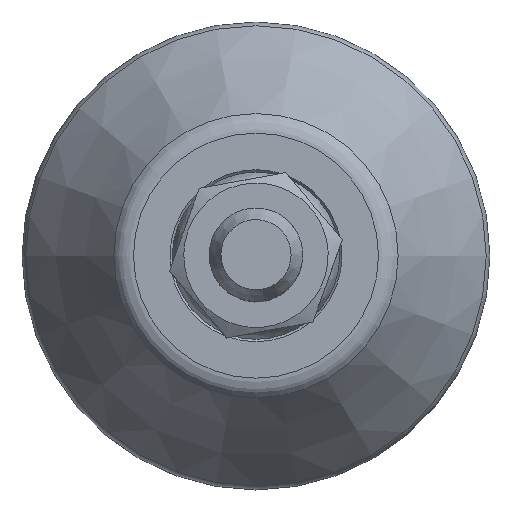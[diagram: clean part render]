
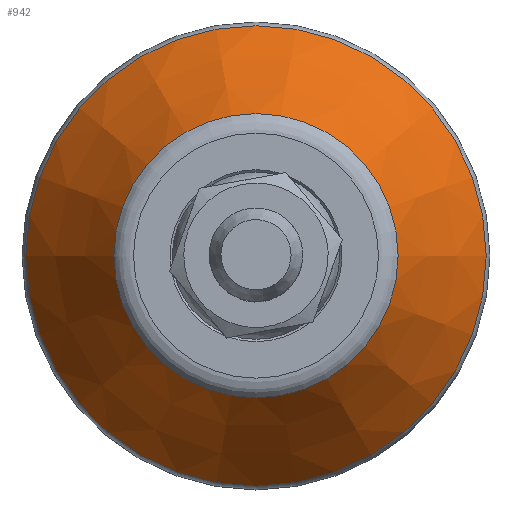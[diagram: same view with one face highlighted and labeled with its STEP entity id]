
A CAD part, top view. The second image highlights one B-rep face of the part: STEP entity #942.
In plain terms, the highlighted conical face has half-angle 33 degrees and reference radius 15.913 mm.
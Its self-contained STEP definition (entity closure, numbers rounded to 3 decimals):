
#942=ADVANCED_FACE('',(#2058,#2060),#2062,.T.);
#2058=FACE_BOUND('',#2059,.T.);
#2059=EDGE_LOOP('',(#3001,#3002));
#2060=FACE_BOUND('',#2061,.T.);
#2061=EDGE_LOOP('',(#3003,#3004));
#2062=CONICAL_SURFACE('',#2063,15.913,0.576);
#2063=AXIS2_PLACEMENT_3D('',#2064,#2065,#2066);
#2064=CARTESIAN_POINT('',(0.,0.,11.293));
#2065=DIRECTION('',(0.,0.,-1.));
#2066=DIRECTION('',(1.,0.,0.));
#3001=ORIENTED_EDGE('',*,*,#3548,.T.);
#3002=ORIENTED_EDGE('',*,*,#3547,.T.);
#3003=ORIENTED_EDGE('',*,*,#3551,.F.);
#3004=ORIENTED_EDGE('',*,*,#3552,.F.);
#3547=EDGE_CURVE('',#4117,#4118,#4119,.T.);
#3548=EDGE_CURVE('',#4118,#4117,#4120,.T.);
#3551=EDGE_CURVE('',#4125,#4126,#4127,.T.);
#3552=EDGE_CURVE('',#4126,#4125,#4128,.T.);
#4117=VERTEX_POINT('',#7105);
#4118=VERTEX_POINT('',#7106);
#4119=CIRCLE('',#7107,19.677);
#4120=CIRCLE('',#7111,19.677);
#4125=VERTEX_POINT('',#7125);
#4126=VERTEX_POINT('',#7126);
#4127=CIRCLE('',#7127,12.149);
#4128=CIRCLE('',#7131,12.149);
#7105=CARTESIAN_POINT('',(-19.677,0.,5.497));
#7106=CARTESIAN_POINT('',(19.677,0.,5.497));
#7107=AXIS2_PLACEMENT_3D('',#7108,#7109,#7110);
#7108=CARTESIAN_POINT('',(0.,0.,5.497));
#7109=DIRECTION('',(0.,0.,1.));
#7110=DIRECTION('',(-1.,0.,0.));
#7111=AXIS2_PLACEMENT_3D('',#7112,#7113,#7114);
#7112=CARTESIAN_POINT('',(0.,0.,5.497));
#7113=DIRECTION('',(0.,0.,1.));
#7114=DIRECTION('',(1.,0.,0.));
#7125=CARTESIAN_POINT('',(-12.149,0.,17.089));
#7126=CARTESIAN_POINT('',(12.149,0.,17.089));
#7127=AXIS2_PLACEMENT_3D('',#7128,#7129,#7130);
#7128=CARTESIAN_POINT('',(0.,0.,17.089));
#7129=DIRECTION('',(0.,0.,1.));
#7130=DIRECTION('',(-1.,0.,0.));
#7131=AXIS2_PLACEMENT_3D('',#7132,#7133,#7134);
#7132=CARTESIAN_POINT('',(0.,0.,17.089));
#7133=DIRECTION('',(0.,0.,1.));
#7134=DIRECTION('',(1.,0.,0.));
